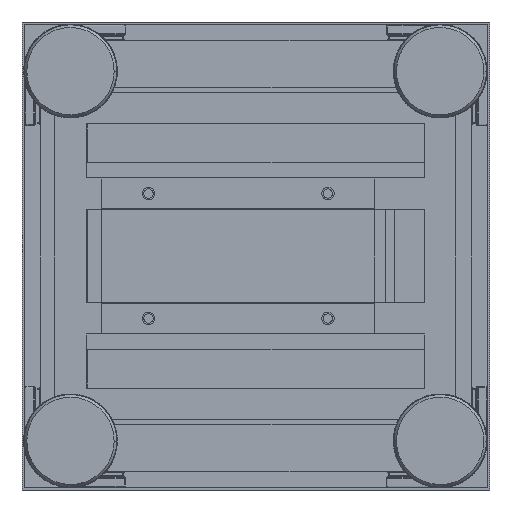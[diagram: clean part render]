
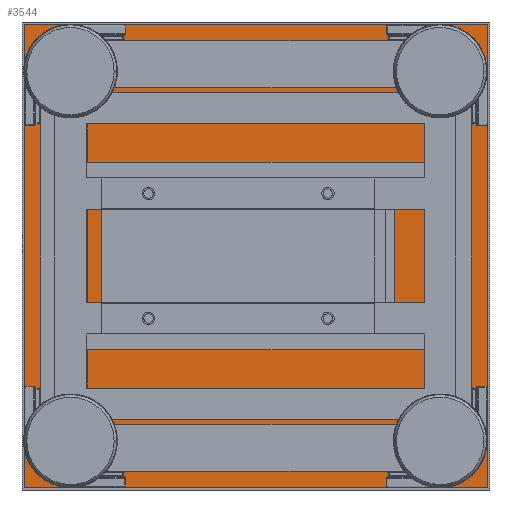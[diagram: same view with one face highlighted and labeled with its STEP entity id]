
A CAD part, front view. The second image highlights one B-rep face of the part: STEP entity #3544.
In plain terms, the highlighted planar face has unit normal (0, -1, 0).
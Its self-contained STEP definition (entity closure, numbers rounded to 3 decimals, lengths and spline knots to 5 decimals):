
#3544=ADVANCED_FACE('0:1453',(#5602),#5603,.F.);
#5602=FACE_OUTER_BOUND('',#11240,.T.);
#5603=PLANE('',#11241);
#11240=EDGE_LOOP('',(#14162,#14163,#14164,#14165));
#11241=AXIS2_PLACEMENT_3D('',#14166,#14167,#14168);
#14162=ORIENTED_EDGE('',*,*,#20645,.T.);
#14163=ORIENTED_EDGE('',*,*,#20646,.T.);
#14164=ORIENTED_EDGE('',*,*,#20647,.T.);
#14165=ORIENTED_EDGE('',*,*,#20648,.T.);
#14166=CARTESIAN_POINT('',(0.16347,0.50691,-0.13786));
#14167=DIRECTION('',(0.,1.0,0.0));
#14168=DIRECTION('',(0.0,0.0,1.0));
#20645=EDGE_CURVE('0:1456',#24675,#24676,#24677,.T.);
#20646=EDGE_CURVE('0:1459',#24676,#24678,#24679,.T.);
#20647=EDGE_CURVE('0:1468',#24678,#24680,#24681,.T.);
#20648=EDGE_CURVE('0:1477',#24680,#24675,#24682,.T.);
#24675=VERTEX_POINT('',#29917);
#24676=VERTEX_POINT('',#29918);
#24677=LINE('',#29919,#29920);
#24678=VERTEX_POINT('',#29921);
#24679=LINE('',#29922,#29923);
#24680=VERTEX_POINT('',#29924);
#24681=LINE('',#29925,#29926);
#24682=LINE('',#29927,#29928);
#29917=CARTESIAN_POINT('',(0.46197,0.50691,-0.13636));
#29918=CARTESIAN_POINT('',(0.46197,0.50691,0.16064));
#29919=CARTESIAN_POINT('',(0.46197,0.50691,-0.06286));
#29920=VECTOR('',#32612,1.0);
#29921=CARTESIAN_POINT('',(0.16497,0.50691,0.16064));
#29922=CARTESIAN_POINT('',(0.23847,0.50691,0.16064));
#29923=VECTOR('',#32613,1.0);
#29924=CARTESIAN_POINT('',(0.16497,0.50691,-0.13636));
#29925=CARTESIAN_POINT('',(0.16497,0.50691,-0.06286));
#29926=VECTOR('',#32614,1.0);
#29927=CARTESIAN_POINT('',(0.23847,0.50691,-0.13636));
#29928=VECTOR('',#32615,1.0);
#32612=DIRECTION('',(0.0,0.0,1.0));
#32613=DIRECTION('',(-1.0,0.,0.0));
#32614=DIRECTION('',(0.0,0.0,-1.0));
#32615=DIRECTION('',(1.0,0.,0.0));
